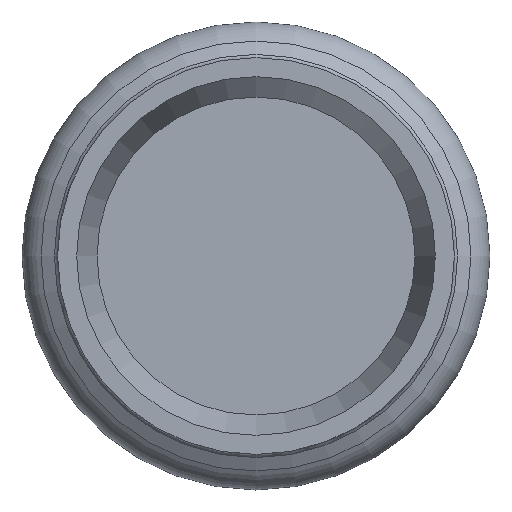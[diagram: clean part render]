
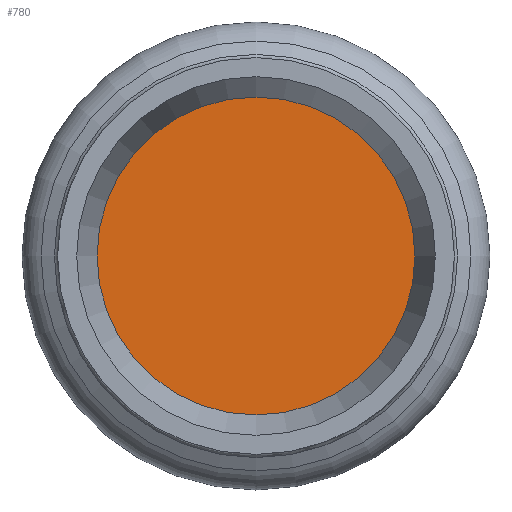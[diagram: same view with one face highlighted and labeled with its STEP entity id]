
A CAD part, left-side view. The second image highlights one B-rep face of the part: STEP entity #780.
In plain terms, the highlighted planar face has unit normal (-1, 0, 0) as drawn and (0, 0, -1) by its records, which use the part's own axes.
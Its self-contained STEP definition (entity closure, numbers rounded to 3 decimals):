
#751=CARTESIAN_POINT('',(0.75,0.,0.0));
#752=VERTEX_POINT('',#751);
#753=CARTESIAN_POINT('',(-13.25,0.0,0.0));
#754=DIRECTION('',(0.0,0.0,-1.0));
#755=DIRECTION('',(-1.0,0.0,0.0));
#756=AXIS2_PLACEMENT_3D('',#753,#754,#755);
#757=CIRCLE('',#756,14.);
#758=EDGE_CURVE('',#752,#752,#757,.T.);
#772=CARTESIAN_POINT('',(-13.25,0.0,0.0));
#773=DIRECTION('',(0.0,0.0,-1.0));
#774=DIRECTION('',(-1.0,0.0,0.0));
#775=AXIS2_PLACEMENT_3D('',#772,#773,#774);
#776=PLANE('',#775);
#777=ORIENTED_EDGE('',*,*,#758,.T.);
#778=EDGE_LOOP('',(#777));
#779=FACE_OUTER_BOUND('',#778,.T.);
#780=ADVANCED_FACE('',(#779),#776,.T.);
